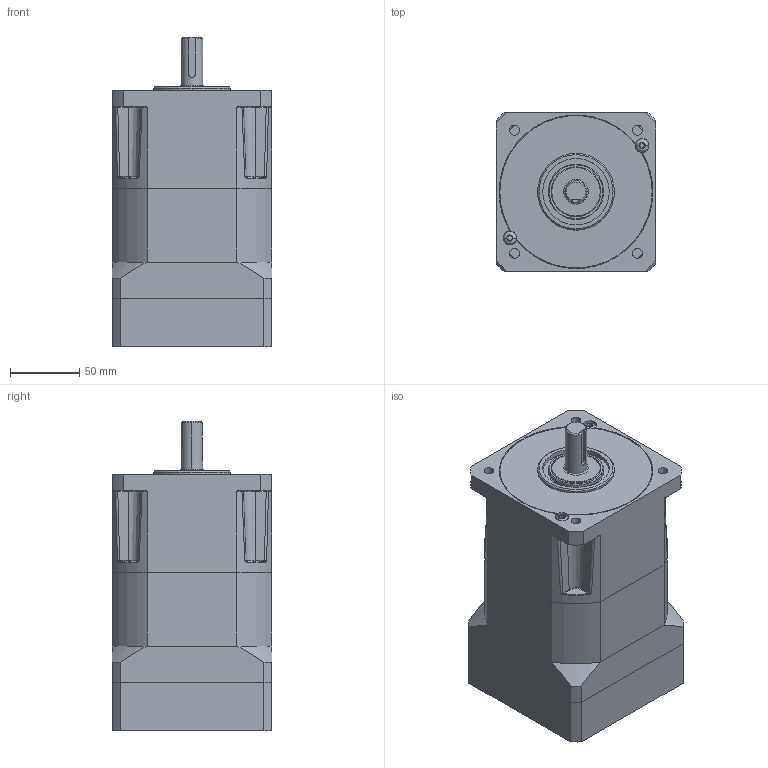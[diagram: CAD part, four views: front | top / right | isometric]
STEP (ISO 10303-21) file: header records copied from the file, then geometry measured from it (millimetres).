
FILE_DESCRIPTION((''),'2;1');
FILE_NAME('GEN_II_PX42_DOUBLE_LONG_ADAPT','2008-11-20T',('aza7363'),(''),'PRO/ENGINEER BY PARAMETRIC TECHNOLOGY CORPORATION, 2006300','PRO/ENGINEER BY PARAMETRIC TECHNOLOGY CORPORATION, 2006300','');
FILE_SCHEMA(('CONFIG_CONTROL_DESIGN'));
Length unit declared in the file: millimetre
Products named in the file (1): GEN_II_PX42_DOUBLE_LONG_ADAPT
Bounding box: 115 x 115 x 223.3 mm (x, y, z)
Surface area: 153654.4 mm2 (no closed solid volume)
Topology: 0 solids, 30 shells, 322 faces, 898 edges, 607 vertices
Faces by surface type: plane 130, cylinder 111, bspline 44, cone 23, torus 14
Entity records: 12546 total; most frequent: CARTESIAN_POINT 4430, DIRECTION 1702, ORIENTED_EDGE 1529, EDGE_CURVE 898, AXIS2_PLACEMENT_3D 644, VERTEX_POINT 607, VECTOR 414, LINE 414
